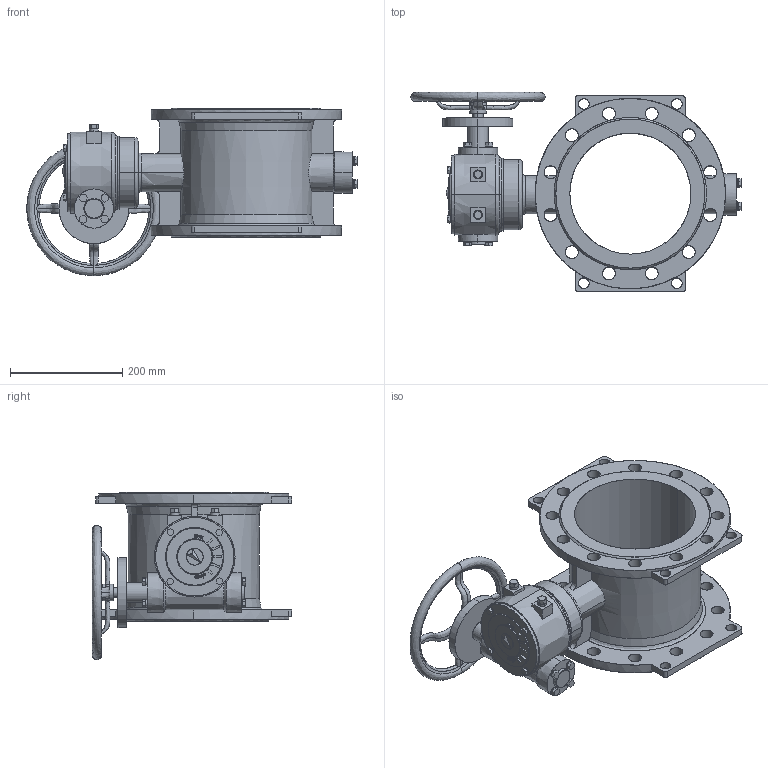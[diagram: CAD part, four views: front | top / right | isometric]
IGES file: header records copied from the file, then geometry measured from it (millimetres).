
Start section: SolidWorks IGES file using analytic representation for surfaces
Global section: file name: 8HF:\2014年工作\泰科菲三维模型资料\DN200 PN16\DN200 PN16.IGS; native system: SolidWorks 2012; preprocessor: SolidWorks 2012; author: Administrator; date: 140925.163918; units: millimetre
Bounding box: 590 x 356.25 x 298.97 mm (x, y, z)
Surface area: 853231.6 mm2 (no closed solid volume)
Topology: 0 solids, 0 shells, 615 faces, 11790 edges, 11761 vertices
Faces by surface type: bspline 408, revolution 207
